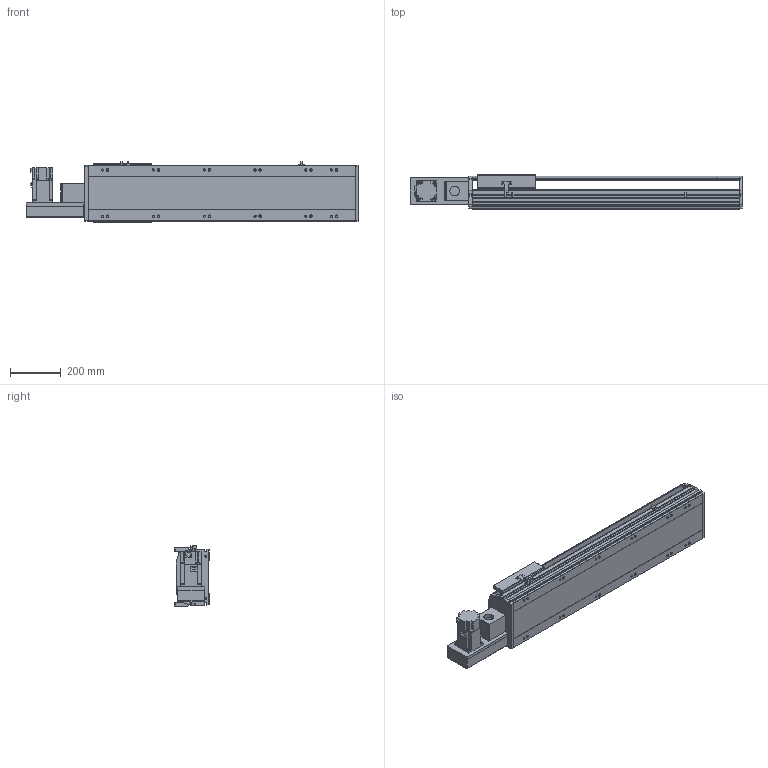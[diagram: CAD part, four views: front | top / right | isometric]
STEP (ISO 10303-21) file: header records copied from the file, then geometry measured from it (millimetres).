
FILE_DESCRIPTION(/* description */ ('STEP AP214'),/* implementation_level */ '2;1');
FILE_NAME(/* name */ 'PBS220-P40-S700-L-T75-C1-N(0)',/* time_stamp */ '2022-06-11T09:55:15+02:00',/* author */ ('License CC BY-ND 4.0'),/* organization */ ('CADENAS'),/* preprocessor_version */ 'ST-DEVELOPER v18.102',/* originating_system */ 'PARTsolutions',/* authorisation */ ' ');
FILE_SCHEMA (('AUTOMOTIVE_DESIGN {1 0 10303 214 3 1 1}'));
Length unit declared in the file: millimetre
Products named in the file (7): PBS220-P40-S700-L-T75-C1-N(0); PBS220_sensor; PBS220_plant; PBS220_sliser; T75-p1; PBS220T-L_motors; PBS220-S700()_body
Assembly tree (8 placements, depth 2):
  PBS220-P40-S700-L-T75-C1-N(0)
    PBS220_sensor  x3
    PBS220_plant
    PBS220_sliser
    T75-p1
    PBS220T-L_motors
    PBS220-S700()_body
Bounding box: 1306 x 134 x 238.5 mm (x, y, z)
Volume: 17415589.1 mm3; surface area: 1756976.7 mm2
Topology: 8 solids, 8 shells, 890 faces, 2340 edges, 1522 vertices
Faces by surface type: plane 590, cylinder 264, cone 36
Full cylindrical faces by diameter (mm): 2.013 x4, 4.5 x14, 4.917 x4, 6 x7, 6.647 x8, 8 x10, 8.376 x12, 8.5 x12, 10 x6, 14 x12, 38 x2, 40 x1, 70 x1
Entity records: 25005 total; most frequent: CARTESIAN_POINT 4360, DIRECTION 4347, ORIENTED_EDGE 4034, EDGE_CURVE 2017, AXIS2_PLACEMENT_3D 1503, VERTEX_POINT 1384, LINE 1341, VECTOR 1341
